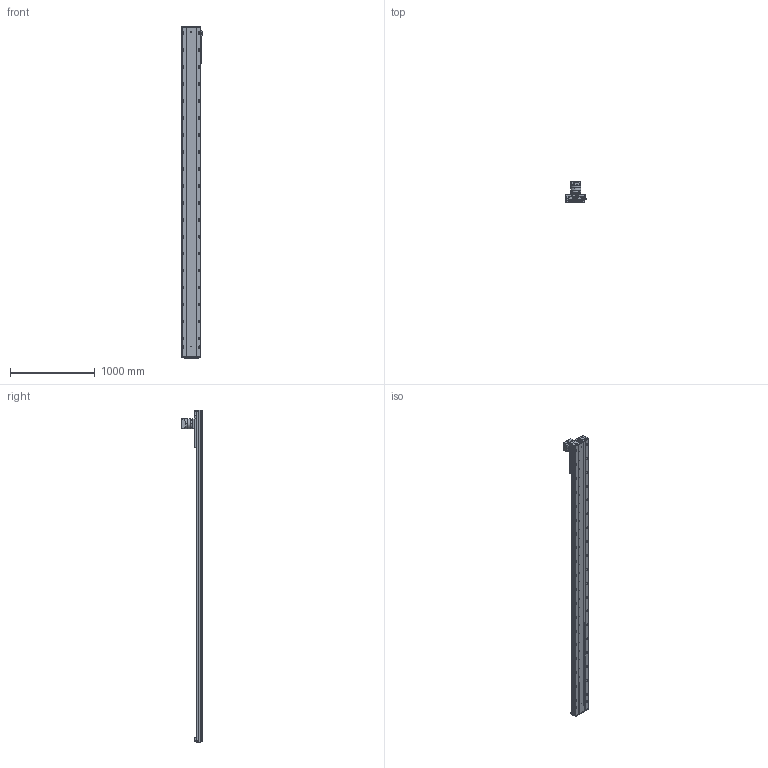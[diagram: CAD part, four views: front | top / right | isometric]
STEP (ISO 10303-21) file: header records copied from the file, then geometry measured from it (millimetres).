
FILE_DESCRIPTION (( 'STEP AP203' ), '1' );
FILE_NAME ('RY220-C-300-UK.SLDASM_3400.step', '2022-08-01T06:01:02', ( '' ), ( '' ), 'SwSTEP 2.0', 'SolidWorks 2016', '' );
FILE_SCHEMA (( 'CONFIG_CONTROL_DESIGN' ));
Length unit declared in the file: millimetre
Products named in the file (10): 滅袉蝶輸ㄗG412隅秶ㄘ; RY220喘沭俋离覜茼え; RY220喘沭綴裔啣; RY220-C-300-UK.SLDASM_3400; PF115L1-S2-22-58-110-145-M8; RY220喘沭賑輸; 覜茼ん674; RY220-齿条模组电机安装板; RY140直线电机感应器674光电安装座; RY220菁釱MK-300_3400
Assembly tree (12 placements, depth 2):
  RY220-C-300-UK.SLDASM_3400
    RY220菁釱MK-300_3400
    RY220喘沭賑輸
    RY220-齿条模组电机安装板
    PF115L1-S2-22-58-110-145-M8
    RY220喘沭綴裔啣  x2
    滅袉蝶輸ㄗG412隅秶ㄘ  x2
    RY140直线电机感应器674光电安装座
    覜茼ん674  x2
    RY220喘沭俋离覜茼え
Bounding box: 247 x 244.5 x 3909 mm (x, y, z)
Volume: 25309003.5 mm3; surface area: 5255921.9 mm2
Topology: 18 solids, 26 shells, 2534 faces, 6845 edges, 4243 vertices
Faces by surface type: cylinder 1263, plane 751, cone 358, bspline 162
Entity records: 80837 total; most frequent: CARTESIAN_POINT 21817, DIRECTION 12275, ORIENTED_EDGE 11874, EDGE_CURVE 5937, AXIS2_PLACEMENT_3D 4729, VERTEX_POINT 3869, EDGE_LOOP 3010, VECTOR 2817
